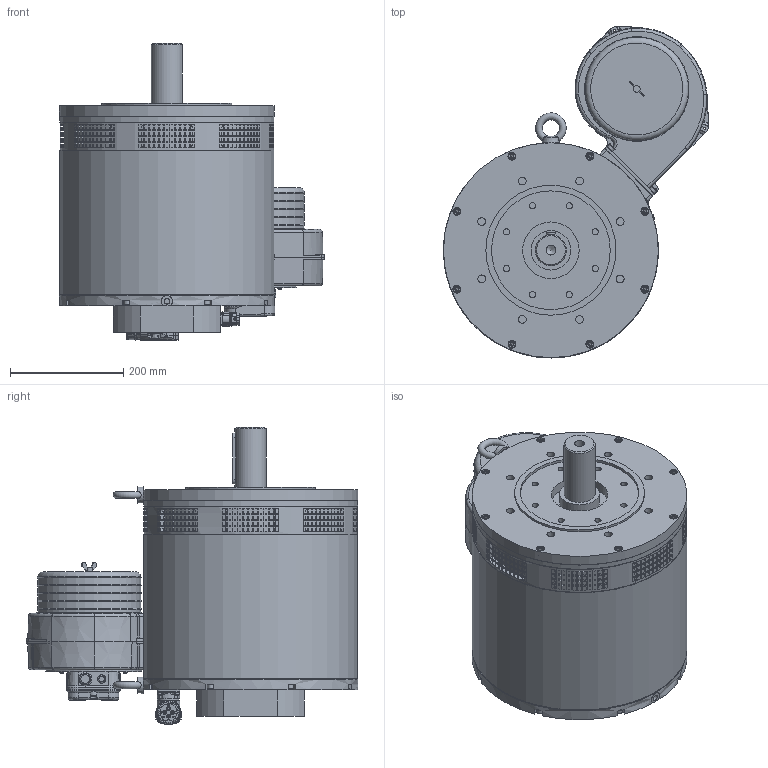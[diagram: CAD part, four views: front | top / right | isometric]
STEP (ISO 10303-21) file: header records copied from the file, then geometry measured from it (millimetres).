
FILE_DESCRIPTION(/* description */ (''),/* implementation_level */ '2;1');
FILE_NAME(/* name */ 'C:\Users\Public\Documents\Autodesk\Inventor LT 2014\Workspace\Motori Sito WEB\TG_9\STEP_DAF_9x\DAF_92_x099.stp',/* time_stamp */ '2021-04-07T16:02:39+02:00',/* author */ ('marcor'),/* organization */ (''),/* preprocessor_version */ 'ST-DEVELOPER v15.2',/* originating_system */ 'Autodesk Inventor LT ',/* authorisation */ '');
FILE_SCHEMA (('AUTOMOTIVE_DESIGN { 1 0 10303 214 3 1 1 }'));
Length unit declared in the file: millimetre
Products named in the file (1): DAF_92_x099
Bounding box: 468.81 x 587.06 x 525.55 mm (x, y, z)
Volume: 43848719.8 mm3; surface area: 2001355 mm2
Topology: 39 solids, 54 shells, 4852 faces, 12669 edges, 8222 vertices
Faces by surface type: plane 2645, cylinder 1446, cone 428, torus 192, bspline 120, sphere 21
Full cylindrical faces by diameter (mm): 1.431 x12, 2 x98, 2.224 x4, 2.5 x4, 2.7 x4, 2.88 x4, 3.2 x1, 3.242 x4, 3.5 x1, 3.6 x5, 4 x9, 4.3 x1, 4.8 x4, 4.917 x4, 5.4 x1, 6 x4, 6.2 x2, 6.3 x2, 6.5 x8, 6.647 x16, 7 x8, 8 x19, 8.5 x1, 9 x16, 9.853 x2, 10 x8, 10.106 x3, 11 x12, 12 x6, 13 x16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
Entity records: 157515 total; most frequent: CARTESIAN_POINT 37961, DIRECTION 24548, ORIENTED_EDGE 23626, EDGE_CURVE 11813, AXIS2_PLACEMENT_3D 9300, VERTEX_POINT 8020, EDGE_LOOP 6275, LINE 5948
